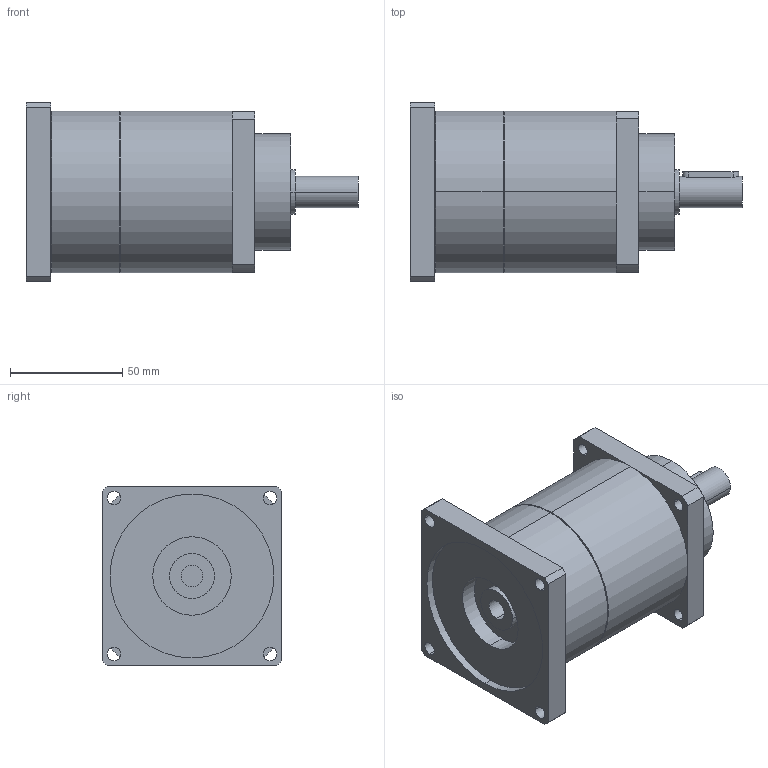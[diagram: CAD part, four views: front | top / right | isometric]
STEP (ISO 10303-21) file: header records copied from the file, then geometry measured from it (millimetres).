
FILE_DESCRIPTION(('CoCreate Modeling STEP Export'),'2;1');
FILE_NAME('GPT75_ig-9-12-16-20-25-28-35-40-50-70-100_14_B5T_9.52_P06.stp','2014-08-27T13:42:16',(''),(''),'CoCreate Modeling STEP processor for AP214 (Solid Model)','CoCreate Modeling 16.00C 25-Feb-2009 (C) Parametric Technology GmbH','');
FILE_SCHEMA(('AUTOMOTIVE_DESIGN { 1 0 10303 214 1 1 1 1 }'));
Length unit declared in the file: millimetre
Products named in the file (2): GPT75_ig-9-12-16-20-25-28-35-40-50-70-100_14_B5T_9.52_P06
Assembly tree (1 placements, depth 2):
  GPT75_ig-9-12-16-20-25-28-35-40-50-70-100_14_B5T_9.52_P06
    GPT75_ig-9-12-16-20-25-28-35-40-50-70-100_14_B5T_9.52_P06
Bounding box: 148 x 80 x 80 mm (x, y, z)
Volume: 465323.3 mm3; surface area: 48054.9 mm2
Topology: 1 solids, 1 shells, 77 faces, 194 edges, 129 vertices
Faces by surface type: cylinder 46, plane 27, cone 4
Entity records: 2484 total; most frequent: CARTESIAN_POINT 719, ORIENTED_EDGE 388, DIRECTION 320, EDGE_CURVE 194, VERTEX_POINT 129, AXIS2_PLACEMENT_3D 118, EDGE_LOOP 103, VECTOR 84
